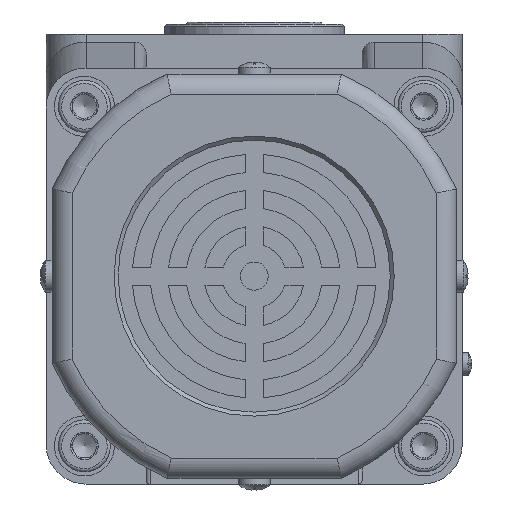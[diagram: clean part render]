
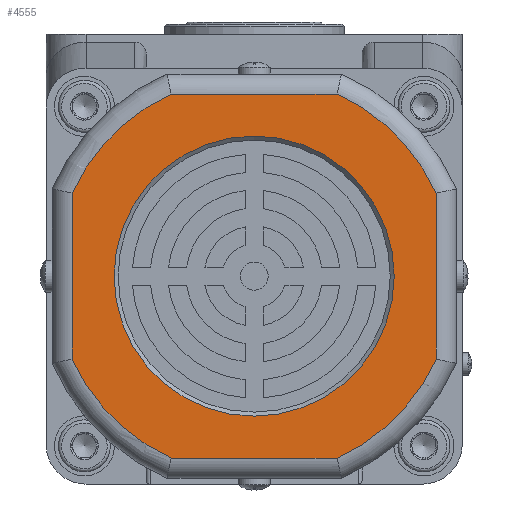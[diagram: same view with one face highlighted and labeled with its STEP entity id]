
A CAD part, front view. The second image highlights one B-rep face of the part: STEP entity #4555.
In plain terms, the highlighted planar face has unit normal (0, -1, 0).
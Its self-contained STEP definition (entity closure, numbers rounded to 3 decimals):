
#684=FACE_BOUND('',#6342,.T.);
#685=FACE_BOUND('',#6343,.T.);
#2099=PLANE('',#14822);
#2806=LINE('',#22147,#3673);
#2807=LINE('',#22152,#3674);
#2808=LINE('',#22156,#3675);
#2809=LINE('',#22160,#3676);
#3673=VECTOR('',#17907,1.);
#3674=VECTOR('',#17910,1.);
#3675=VECTOR('',#17913,1.);
#3676=VECTOR('',#17916,1.);
#4555=ADVANCED_FACE('',(#684,#685),#2099,.F.);
#6342=EDGE_LOOP('',(#8908));
#6343=EDGE_LOOP('',(#8909,#8910,#8911,#8912,#8913,#8914,#8915,#8916));
#8908=ORIENTED_EDGE('',*,*,#12321,.T.);
#8909=ORIENTED_EDGE('',*,*,#12322,.T.);
#8910=ORIENTED_EDGE('',*,*,#12323,.T.);
#8911=ORIENTED_EDGE('',*,*,#12324,.T.);
#8912=ORIENTED_EDGE('',*,*,#12325,.T.);
#8913=ORIENTED_EDGE('',*,*,#12326,.T.);
#8914=ORIENTED_EDGE('',*,*,#12327,.T.);
#8915=ORIENTED_EDGE('',*,*,#12328,.T.);
#8916=ORIENTED_EDGE('',*,*,#12329,.T.);
#10814=VERTEX_POINT('',#22146);
#10815=VERTEX_POINT('',#22148);
#10816=VERTEX_POINT('',#22149);
#10817=VERTEX_POINT('',#22151);
#10818=VERTEX_POINT('',#22153);
#10819=VERTEX_POINT('',#22155);
#10820=VERTEX_POINT('',#22157);
#10821=VERTEX_POINT('',#22159);
#10822=VERTEX_POINT('',#22161);
#12321=EDGE_CURVE('',#10814,#10814,#13371,.T.);
#12322=EDGE_CURVE('',#10815,#10816,#2806,.T.);
#12323=EDGE_CURVE('',#10816,#10817,#13372,.T.);
#12324=EDGE_CURVE('',#10817,#10818,#2807,.T.);
#12325=EDGE_CURVE('',#10818,#10819,#13373,.T.);
#12326=EDGE_CURVE('',#10819,#10820,#2808,.T.);
#12327=EDGE_CURVE('',#10820,#10821,#13374,.T.);
#12328=EDGE_CURVE('',#10821,#10822,#2809,.T.);
#12329=EDGE_CURVE('',#10822,#10815,#13375,.T.);
#13371=CIRCLE('',#14817,35.);
#13372=CIRCLE('',#14818,50.);
#13373=CIRCLE('',#14819,50.);
#13374=CIRCLE('',#14820,50.);
#13375=CIRCLE('',#14821,50.);
#14817=AXIS2_PLACEMENT_3D('',#22145,#17905,#17906);
#14818=AXIS2_PLACEMENT_3D('',#22150,#17908,#17909);
#14819=AXIS2_PLACEMENT_3D('',#22154,#17911,#17912);
#14820=AXIS2_PLACEMENT_3D('',#22158,#17914,#17915);
#14821=AXIS2_PLACEMENT_3D('',#22162,#17917,#17918);
#14822=AXIS2_PLACEMENT_3D('',#22163,#17919,#17920);
#17905=DIRECTION('',(0.,1.,0.));
#17906=DIRECTION('',(-1.,0.,0.));
#17907=DIRECTION('',(0.,0.,1.));
#17908=DIRECTION('',(0.,-1.,0.));
#17909=DIRECTION('',(-1.,0.,0.));
#17910=DIRECTION('',(-1.,0.,0.));
#17911=DIRECTION('',(0.,-1.,0.));
#17912=DIRECTION('',(-1.,0.,0.));
#17913=DIRECTION('',(0.,0.,-1.));
#17914=DIRECTION('',(0.,-1.,0.));
#17915=DIRECTION('',(-1.,0.,0.));
#17916=DIRECTION('',(1.,0.,0.));
#17917=DIRECTION('',(0.,-1.,0.));
#17918=DIRECTION('',(-1.,0.,0.));
#17919=DIRECTION('',(0.,1.,0.));
#17920=DIRECTION('',(-1.,0.,0.));
#22145=CARTESIAN_POINT('',(0.,-313.,-60.5));
#22146=CARTESIAN_POINT('',(-35.,-313.,-60.5));
#22147=CARTESIAN_POINT('',(45.5,-313.,-38.711));
#22148=CARTESIAN_POINT('',(45.5,-313.,-81.23));
#22149=CARTESIAN_POINT('',(45.5,-313.,-39.77));
#22150=CARTESIAN_POINT('',(0.,-313.,-60.5));
#22151=CARTESIAN_POINT('',(20.73,-313.,-15.));
#22152=CARTESIAN_POINT('',(-21.789,-313.,-15.));
#22153=CARTESIAN_POINT('',(-20.73,-313.,-15.));
#22154=CARTESIAN_POINT('',(0.,-313.,-60.5));
#22155=CARTESIAN_POINT('',(-45.5,-313.,-39.77));
#22156=CARTESIAN_POINT('',(-45.5,-313.,-82.289));
#22157=CARTESIAN_POINT('',(-45.5,-313.,-81.23));
#22158=CARTESIAN_POINT('',(0.,-313.,-60.5));
#22159=CARTESIAN_POINT('',(-20.73,-313.,-106.));
#22160=CARTESIAN_POINT('',(21.789,-313.,-106.));
#22161=CARTESIAN_POINT('',(20.73,-313.,-106.));
#22162=CARTESIAN_POINT('',(0.,-313.,-60.5));
#22163=CARTESIAN_POINT('',(0.,-313.,-60.5));
